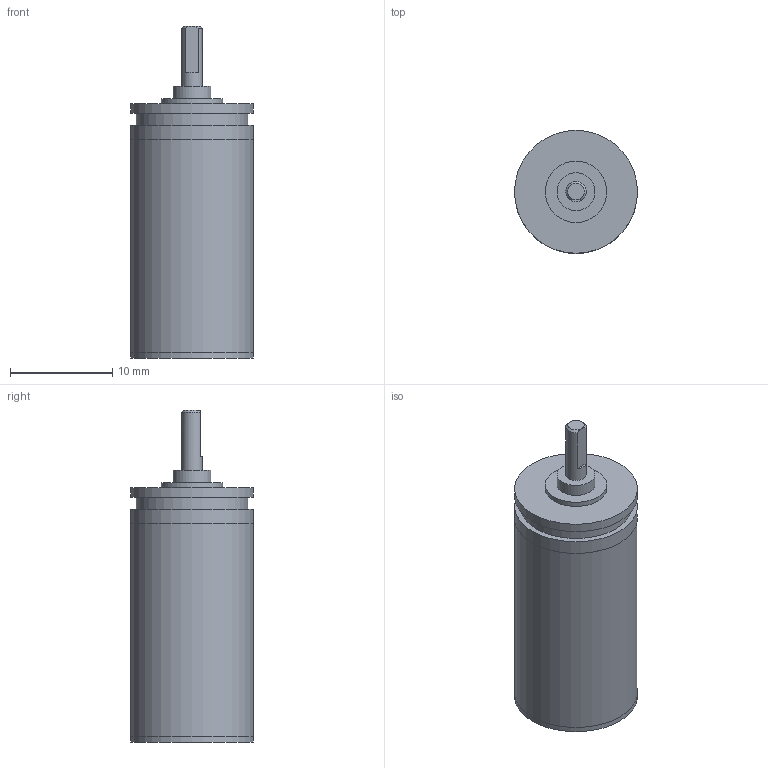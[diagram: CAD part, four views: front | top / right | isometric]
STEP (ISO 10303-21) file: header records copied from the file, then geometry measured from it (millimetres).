
FILE_DESCRIPTION(/* description */ (''),/* implementation_level */ '2;1');
FILE_NAME(/* name */ '12-3K_7.stp',/* time_stamp */ '2016-08-24T10:21:46+02:00',/* author */ ('DR. FRITZ FAULHABER GmbH & Co. KG'),/* organization */ ('DR. FRITZ FAULHABER GmbH & Co. KG'),/* preprocessor_version */ 'ST-DEVELOPER v16',/* originating_system */ 'SIEMENS PLM Software NX 10.0',/* authorisation */ '');
FILE_SCHEMA (('AUTOMOTIVE_DESIGN { 1 0 10303 214 3 1 1 1 }'));
Length unit declared in the file: millimetre
Products named in the file (1): H00000583_A
Bounding box: 12 x 12 x 32.4 mm (x, y, z)
Volume: 2754.2 mm3; surface area: 1323.3 mm2
Topology: 1 solids, 1 shells, 32 faces, 52 edges, 34 vertices
Faces by surface type: plane 16, cylinder 14, cone 2
Full cylindrical faces by diameter (mm): 2 x1, 2.48 x1, 2.6 x1, 3.7 x1, 5 x1, 6 x2, 10.88 x1, 11.99 x2, 12 x4
Entity records: 692 total; most frequent: DIRECTION 129, CARTESIAN_POINT 115, ORIENTED_EDGE 70, AXIS2_PLACEMENT_3D 63, EDGE_LOOP 59, FACE_BOUND 54, EDGE_CURVE 35, ADVANCED_FACE 32
